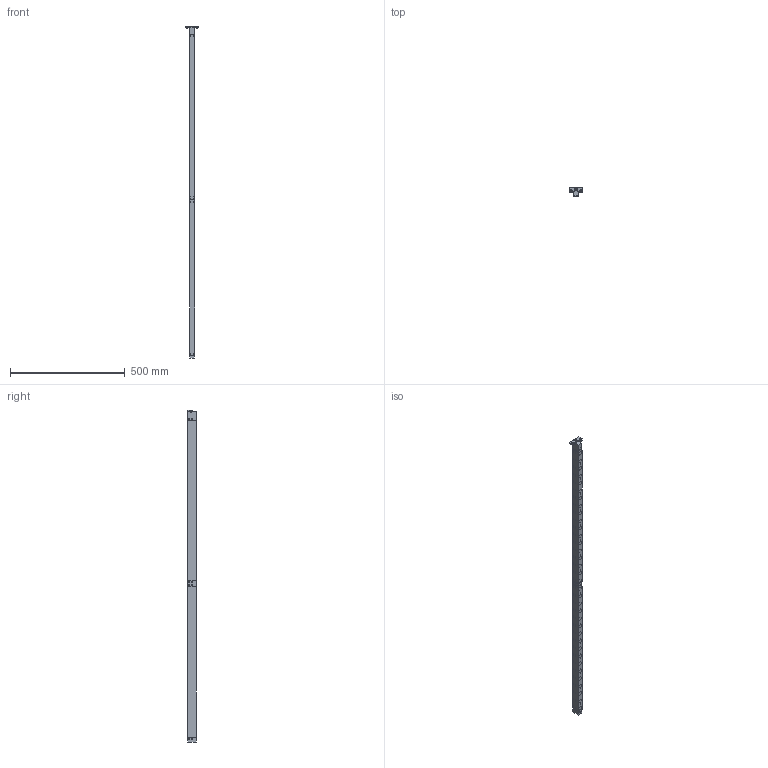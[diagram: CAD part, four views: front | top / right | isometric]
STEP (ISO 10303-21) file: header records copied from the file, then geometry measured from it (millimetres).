
FILE_DESCRIPTION(/* description */ (''),/* implementation_level */ '2;1');
FILE_NAME(/* name */ 'S:\EASCN Vault\Designs\Standard Part\DIE LIFTERS\EHB\EHB- 3D step\EHB22 - 3D step complete serie\EHB 22-35.stp',/* time_stamp */ '2019-11-21T15:31:58+08:00',/* author */ ('yue.yang'),/* organization */ (''),/* preprocessor_version */ 'ST-DEVELOPER v17',/* originating_system */ 'Autodesk Inventor 2019',/* authorisation */ '');
FILE_SCHEMA (('AUTOMOTIVE_DESIGN { 1 0 10303 214 3 1 1 }'));
Length unit declared in the file: millimetre
Products named in the file (1): EHB 22-35_Shrinkwrap_1
Bounding box: 58 x 37.8 x 1449 mm (x, y, z)
Volume: 928305 mm3; surface area: 369983 mm2
Topology: 124 solids, 124 shells, 1202 faces, 3310 edges, 2392 vertices
Faces by surface type: plane 426, cylinder 383, cone 183, torus 175, sphere 35
Full cylindrical faces by diameter (mm): 3 x3, 4.134 x1, 5 x27, 5.5 x5, 6 x37, 6.647 x2, 8 x2, 10 x8, 10.5 x1, 12.2 x35, 16 x35, 16.4 x35, 17.05 x35, 19.05 x35, 19.2 x35
Entity records: 44963 total; most frequent: CARTESIAN_POINT 11146, DIRECTION 7374, ORIENTED_EDGE 6398, AXIS2_PLACEMENT_3D 3257, EDGE_CURVE 3199, VERTEX_POINT 2392, CIRCLE 2052, EDGE_LOOP 1553
